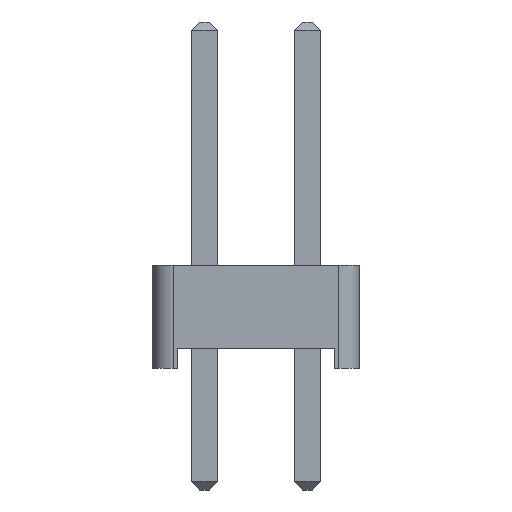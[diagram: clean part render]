
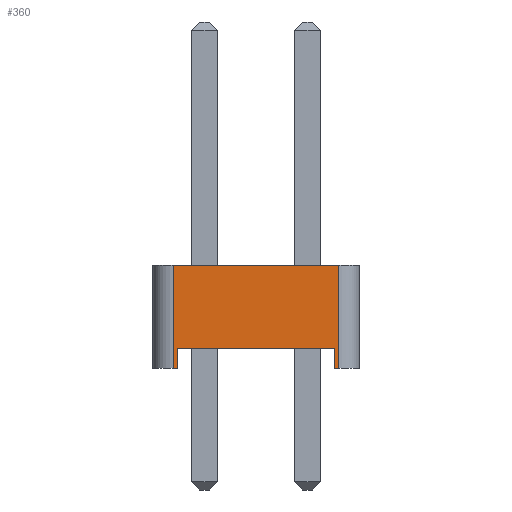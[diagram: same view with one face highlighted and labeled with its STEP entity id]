
A CAD part, left-side view. The second image highlights one B-rep face of the part: STEP entity #360.
In plain terms, the highlighted planar face has unit normal (-1, 0, 0).
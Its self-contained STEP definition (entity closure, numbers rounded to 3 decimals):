
#100 = VERTEX_POINT('',#101);
#101 = CARTESIAN_POINT('',(-1.27,2.04,0.));
#109 = PLANE('',#110);
#110 = AXIS2_PLACEMENT_3D('',#111,#112,#113);
#111 = CARTESIAN_POINT('',(0.,0.,0.));
#112 = DIRECTION('',(-0.,-0.,-1.));
#113 = DIRECTION('',(-1.,0.,0.));
#125 = CYLINDRICAL_SURFACE('',#126,0.5);
#126 = AXIS2_PLACEMENT_3D('',#127,#128,#129);
#127 = CARTESIAN_POINT('',(-0.77,2.04,0.));
#128 = DIRECTION('',(0.,0.,1.));
#129 = DIRECTION('',(0.,1.,0.));
#227 = VERTEX_POINT('',#228);
#228 = CARTESIAN_POINT('',(-1.27,1.94,0.));
#242 = PLANE('',#243);
#243 = AXIS2_PLACEMENT_3D('',#244,#245,#246);
#244 = CARTESIAN_POINT('',(1.27,1.94,0.));
#245 = DIRECTION('',(0.,-1.,0.));
#246 = DIRECTION('',(-1.,0.,0.));
#254 = EDGE_CURVE('',#227,#100,#255,.T.);
#255 = SURFACE_CURVE('',#256,(#260,#267),.PCURVE_S1.);
#256 = LINE('',#257,#258);
#257 = CARTESIAN_POINT('',(-1.27,-2.54,0.));
#258 = VECTOR('',#259,1.);
#259 = DIRECTION('',(0.,1.,0.));
#260 = PCURVE('',#109,#261);
#261 = DEFINITIONAL_REPRESENTATION('',(#262),#266);
#262 = LINE('',#263,#264);
#263 = CARTESIAN_POINT('',(1.27,-2.54));
#264 = VECTOR('',#265,1.);
#265 = DIRECTION('',(0.,1.));
#266 = ( GEOMETRIC_REPRESENTATION_CONTEXT(2) 
PARAMETRIC_REPRESENTATION_CONTEXT() REPRESENTATION_CONTEXT('2D SPACE',''
  ) );
#267 = PCURVE('',#268,#273);
#268 = PLANE('',#269);
#269 = AXIS2_PLACEMENT_3D('',#270,#271,#272);
#270 = CARTESIAN_POINT('',(-1.27,-2.54,0.));
#271 = DIRECTION('',(-1.,0.,0.));
#272 = DIRECTION('',(0.,1.,0.));
#273 = DEFINITIONAL_REPRESENTATION('',(#274),#278);
#274 = LINE('',#275,#276);
#275 = CARTESIAN_POINT('',(0.,0.));
#276 = VECTOR('',#277,1.);
#277 = DIRECTION('',(1.,0.));
#278 = ( GEOMETRIC_REPRESENTATION_CONTEXT(2) 
PARAMETRIC_REPRESENTATION_CONTEXT() REPRESENTATION_CONTEXT('2D SPACE',''
  ) );
#284 = EDGE_CURVE('',#100,#285,#287,.T.);
#285 = VERTEX_POINT('',#286);
#286 = CARTESIAN_POINT('',(-1.27,2.04,2.54));
#287 = SURFACE_CURVE('',#288,(#292,#299),.PCURVE_S1.);
#288 = LINE('',#289,#290);
#289 = CARTESIAN_POINT('',(-1.27,2.04,0.));
#290 = VECTOR('',#291,1.);
#291 = DIRECTION('',(0.,0.,1.));
#292 = PCURVE('',#125,#293);
#293 = DEFINITIONAL_REPRESENTATION('',(#294),#298);
#294 = LINE('',#295,#296);
#295 = CARTESIAN_POINT('',(1.571,0.));
#296 = VECTOR('',#297,1.);
#297 = DIRECTION('',(0.,1.));
#298 = ( GEOMETRIC_REPRESENTATION_CONTEXT(2) 
PARAMETRIC_REPRESENTATION_CONTEXT() REPRESENTATION_CONTEXT('2D SPACE',''
  ) );
#299 = PCURVE('',#268,#300);
#300 = DEFINITIONAL_REPRESENTATION('',(#301),#305);
#301 = LINE('',#302,#303);
#302 = CARTESIAN_POINT('',(4.58,0.));
#303 = VECTOR('',#304,1.);
#304 = DIRECTION('',(0.,-1.));
#305 = ( GEOMETRIC_REPRESENTATION_CONTEXT(2) 
PARAMETRIC_REPRESENTATION_CONTEXT() REPRESENTATION_CONTEXT('2D SPACE',''
  ) );
#324 = PLANE('',#325);
#325 = AXIS2_PLACEMENT_3D('',#326,#327,#328);
#326 = CARTESIAN_POINT('',(0.,0.,2.54));
#327 = DIRECTION('',(-0.,-0.,-1.));
#328 = DIRECTION('',(-1.,0.,0.));
#360 = ADVANCED_FACE('',(#361),#268,.T.);
#361 = FACE_BOUND('',#362,.T.);
#362 = EDGE_LOOP('',(#363,#393,#421,#442,#443,#444,#467,#495));
#363 = ORIENTED_EDGE('',*,*,#364,.F.);
#364 = EDGE_CURVE('',#365,#367,#369,.T.);
#365 = VERTEX_POINT('',#366);
#366 = CARTESIAN_POINT('',(-1.27,-2.04,0.));
#367 = VERTEX_POINT('',#368);
#368 = CARTESIAN_POINT('',(-1.27,-1.94,0.));
#369 = SURFACE_CURVE('',#370,(#374,#381),.PCURVE_S1.);
#370 = LINE('',#371,#372);
#371 = CARTESIAN_POINT('',(-1.27,-2.54,0.));
#372 = VECTOR('',#373,1.);
#373 = DIRECTION('',(0.,1.,0.));
#374 = PCURVE('',#268,#375);
#375 = DEFINITIONAL_REPRESENTATION('',(#376),#380);
#376 = LINE('',#377,#378);
#377 = CARTESIAN_POINT('',(0.,0.));
#378 = VECTOR('',#379,1.);
#379 = DIRECTION('',(1.,0.));
#380 = ( GEOMETRIC_REPRESENTATION_CONTEXT(2) 
PARAMETRIC_REPRESENTATION_CONTEXT() REPRESENTATION_CONTEXT('2D SPACE',''
  ) );
#381 = PCURVE('',#382,#387);
#382 = PLANE('',#383);
#383 = AXIS2_PLACEMENT_3D('',#384,#385,#386);
#384 = CARTESIAN_POINT('',(0.,0.,0.));
#385 = DIRECTION('',(-0.,-0.,-1.));
#386 = DIRECTION('',(-1.,0.,0.));
#387 = DEFINITIONAL_REPRESENTATION('',(#388),#392);
#388 = LINE('',#389,#390);
#389 = CARTESIAN_POINT('',(1.27,-2.54));
#390 = VECTOR('',#391,1.);
#391 = DIRECTION('',(0.,1.));
#392 = ( GEOMETRIC_REPRESENTATION_CONTEXT(2) 
PARAMETRIC_REPRESENTATION_CONTEXT() REPRESENTATION_CONTEXT('2D SPACE',''
  ) );
#393 = ORIENTED_EDGE('',*,*,#394,.T.);
#394 = EDGE_CURVE('',#365,#395,#397,.T.);
#395 = VERTEX_POINT('',#396);
#396 = CARTESIAN_POINT('',(-1.27,-2.04,2.54));
#397 = SURFACE_CURVE('',#398,(#402,#409),.PCURVE_S1.);
#398 = LINE('',#399,#400);
#399 = CARTESIAN_POINT('',(-1.27,-2.04,0.));
#400 = VECTOR('',#401,1.);
#401 = DIRECTION('',(0.,0.,1.));
#402 = PCURVE('',#268,#403);
#403 = DEFINITIONAL_REPRESENTATION('',(#404),#408);
#404 = LINE('',#405,#406);
#405 = CARTESIAN_POINT('',(0.5,0.));
#406 = VECTOR('',#407,1.);
#407 = DIRECTION('',(0.,-1.));
#408 = ( GEOMETRIC_REPRESENTATION_CONTEXT(2) 
PARAMETRIC_REPRESENTATION_CONTEXT() REPRESENTATION_CONTEXT('2D SPACE',''
  ) );
#409 = PCURVE('',#410,#415);
#410 = CYLINDRICAL_SURFACE('',#411,0.5);
#411 = AXIS2_PLACEMENT_3D('',#412,#413,#414);
#412 = CARTESIAN_POINT('',(-0.77,-2.04,0.));
#413 = DIRECTION('',(0.,0.,1.));
#414 = DIRECTION('',(0.,-1.,0.));
#415 = DEFINITIONAL_REPRESENTATION('',(#416),#420);
#416 = LINE('',#417,#418);
#417 = CARTESIAN_POINT('',(-1.571,0.));
#418 = VECTOR('',#419,1.);
#419 = DIRECTION('',(-0.,1.));
#420 = ( GEOMETRIC_REPRESENTATION_CONTEXT(2) 
PARAMETRIC_REPRESENTATION_CONTEXT() REPRESENTATION_CONTEXT('2D SPACE',''
  ) );
#421 = ORIENTED_EDGE('',*,*,#422,.T.);
#422 = EDGE_CURVE('',#395,#285,#423,.T.);
#423 = SURFACE_CURVE('',#424,(#428,#435),.PCURVE_S1.);
#424 = LINE('',#425,#426);
#425 = CARTESIAN_POINT('',(-1.27,-2.54,2.54));
#426 = VECTOR('',#427,1.);
#427 = DIRECTION('',(0.,1.,0.));
#428 = PCURVE('',#268,#429);
#429 = DEFINITIONAL_REPRESENTATION('',(#430),#434);
#430 = LINE('',#431,#432);
#431 = CARTESIAN_POINT('',(0.,-2.54));
#432 = VECTOR('',#433,1.);
#433 = DIRECTION('',(1.,0.));
#434 = ( GEOMETRIC_REPRESENTATION_CONTEXT(2) 
PARAMETRIC_REPRESENTATION_CONTEXT() REPRESENTATION_CONTEXT('2D SPACE',''
  ) );
#435 = PCURVE('',#324,#436);
#436 = DEFINITIONAL_REPRESENTATION('',(#437),#441);
#437 = LINE('',#438,#439);
#438 = CARTESIAN_POINT('',(1.27,-2.54));
#439 = VECTOR('',#440,1.);
#440 = DIRECTION('',(0.,1.));
#441 = ( GEOMETRIC_REPRESENTATION_CONTEXT(2) 
PARAMETRIC_REPRESENTATION_CONTEXT() REPRESENTATION_CONTEXT('2D SPACE',''
  ) );
#442 = ORIENTED_EDGE('',*,*,#284,.F.);
#443 = ORIENTED_EDGE('',*,*,#254,.F.);
#444 = ORIENTED_EDGE('',*,*,#445,.T.);
#445 = EDGE_CURVE('',#227,#446,#448,.T.);
#446 = VERTEX_POINT('',#447);
#447 = CARTESIAN_POINT('',(-1.27,1.94,0.5));
#448 = SURFACE_CURVE('',#449,(#453,#460),.PCURVE_S1.);
#449 = LINE('',#450,#451);
#450 = CARTESIAN_POINT('',(-1.27,1.94,0.));
#451 = VECTOR('',#452,1.);
#452 = DIRECTION('',(0.,0.,1.));
#453 = PCURVE('',#268,#454);
#454 = DEFINITIONAL_REPRESENTATION('',(#455),#459);
#455 = LINE('',#456,#457);
#456 = CARTESIAN_POINT('',(4.48,0.));
#457 = VECTOR('',#458,1.);
#458 = DIRECTION('',(0.,-1.));
#459 = ( GEOMETRIC_REPRESENTATION_CONTEXT(2) 
PARAMETRIC_REPRESENTATION_CONTEXT() REPRESENTATION_CONTEXT('2D SPACE',''
  ) );
#460 = PCURVE('',#242,#461);
#461 = DEFINITIONAL_REPRESENTATION('',(#462),#466);
#462 = LINE('',#463,#464);
#463 = CARTESIAN_POINT('',(2.54,0.));
#464 = VECTOR('',#465,1.);
#465 = DIRECTION('',(0.,-1.));
#466 = ( GEOMETRIC_REPRESENTATION_CONTEXT(2) 
PARAMETRIC_REPRESENTATION_CONTEXT() REPRESENTATION_CONTEXT('2D SPACE',''
  ) );
#467 = ORIENTED_EDGE('',*,*,#468,.T.);
#468 = EDGE_CURVE('',#446,#469,#471,.T.);
#469 = VERTEX_POINT('',#470);
#470 = CARTESIAN_POINT('',(-1.27,-1.94,0.5));
#471 = SURFACE_CURVE('',#472,(#476,#483),.PCURVE_S1.);
#472 = LINE('',#473,#474);
#473 = CARTESIAN_POINT('',(-1.27,1.94,0.5));
#474 = VECTOR('',#475,1.);
#475 = DIRECTION('',(0.,-1.,0.));
#476 = PCURVE('',#268,#477);
#477 = DEFINITIONAL_REPRESENTATION('',(#478),#482);
#478 = LINE('',#479,#480);
#479 = CARTESIAN_POINT('',(4.48,-0.5));
#480 = VECTOR('',#481,1.);
#481 = DIRECTION('',(-1.,0.));
#482 = ( GEOMETRIC_REPRESENTATION_CONTEXT(2) 
PARAMETRIC_REPRESENTATION_CONTEXT() REPRESENTATION_CONTEXT('2D SPACE',''
  ) );
#483 = PCURVE('',#484,#489);
#484 = PLANE('',#485);
#485 = AXIS2_PLACEMENT_3D('',#486,#487,#488);
#486 = CARTESIAN_POINT('',(0.,0.,0.5));
#487 = DIRECTION('',(0.,0.,1.));
#488 = DIRECTION('',(1.,0.,0.));
#489 = DEFINITIONAL_REPRESENTATION('',(#490),#494);
#490 = LINE('',#491,#492);
#491 = CARTESIAN_POINT('',(-1.27,1.94));
#492 = VECTOR('',#493,1.);
#493 = DIRECTION('',(0.,-1.));
#494 = ( GEOMETRIC_REPRESENTATION_CONTEXT(2) 
PARAMETRIC_REPRESENTATION_CONTEXT() REPRESENTATION_CONTEXT('2D SPACE',''
  ) );
#495 = ORIENTED_EDGE('',*,*,#496,.F.);
#496 = EDGE_CURVE('',#367,#469,#497,.T.);
#497 = SURFACE_CURVE('',#498,(#502,#509),.PCURVE_S1.);
#498 = LINE('',#499,#500);
#499 = CARTESIAN_POINT('',(-1.27,-1.94,0.));
#500 = VECTOR('',#501,1.);
#501 = DIRECTION('',(0.,0.,1.));
#502 = PCURVE('',#268,#503);
#503 = DEFINITIONAL_REPRESENTATION('',(#504),#508);
#504 = LINE('',#505,#506);
#505 = CARTESIAN_POINT('',(0.6,0.));
#506 = VECTOR('',#507,1.);
#507 = DIRECTION('',(0.,-1.));
#508 = ( GEOMETRIC_REPRESENTATION_CONTEXT(2) 
PARAMETRIC_REPRESENTATION_CONTEXT() REPRESENTATION_CONTEXT('2D SPACE',''
  ) );
#509 = PCURVE('',#510,#515);
#510 = PLANE('',#511);
#511 = AXIS2_PLACEMENT_3D('',#512,#513,#514);
#512 = CARTESIAN_POINT('',(-1.27,-1.94,0.));
#513 = DIRECTION('',(0.,1.,0.));
#514 = DIRECTION('',(1.,0.,0.));
#515 = DEFINITIONAL_REPRESENTATION('',(#516),#520);
#516 = LINE('',#517,#518);
#517 = CARTESIAN_POINT('',(0.,0.));
#518 = VECTOR('',#519,1.);
#519 = DIRECTION('',(0.,-1.));
#520 = ( GEOMETRIC_REPRESENTATION_CONTEXT(2) 
PARAMETRIC_REPRESENTATION_CONTEXT() REPRESENTATION_CONTEXT('2D SPACE',''
  ) );
